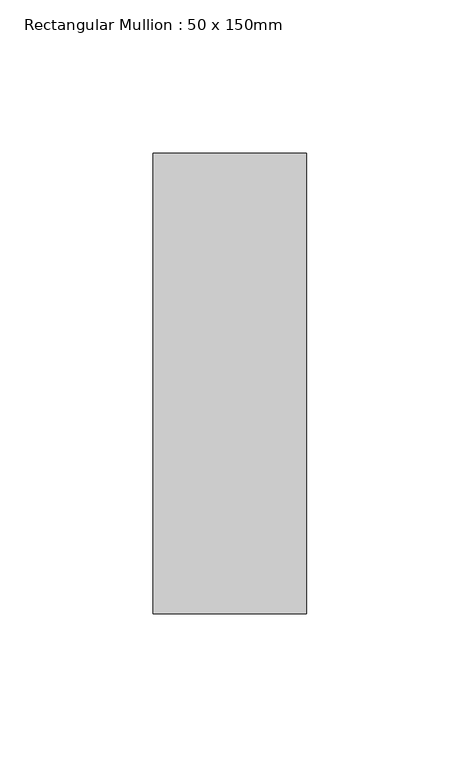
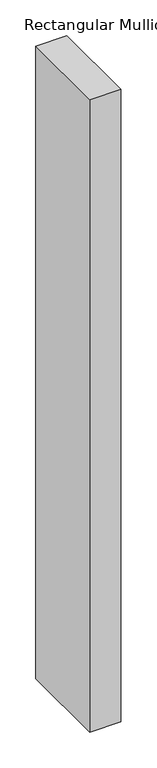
"""IFC4 building model written with IfcOpenShell, lengths in millimetres: member geometry, Rectangular Mullion : 50 x 150mm."""

import ifcopenshell
import ifcopenshell.guid

model = None  # the IFC model being written
_history = None  # IfcOwnerHistory: only IFC2X3 demands one
_inside = {}  # id of a spatial element -> (the spatial element, [elements in it])
_under = {}  # id of a project, library or spatial element -> (it, [spatial elements below it])
_declared = {}  # id of a project -> (the project, [libraries it declares])
_typed = {}  # id of a type object -> (the type object, [elements of that type])
_made_of = {}  # id of a material, layer set ... -> (it, [elements and type objects made of it])


def new_model(schema):
    """Start an empty IFC model of exactly this schema.

    Asked for "IFC4X3", IfcOpenShell would pick the latest addendum, in which some entities
    have other attributes; the version numbers below select the first issue.
    IFC2X3 requires an IfcOwnerHistory on every rooted entity: one is made here for all.
    """
    global model, _history
    if schema == "IFC4X3":
        model = ifcopenshell.file(schema_version=(4, 3, 0, 0))
    else:
        model = ifcopenshell.file(schema=schema)
    _inside.clear()
    _under.clear()
    _declared.clear()
    _typed.clear()
    _made_of.clear()
    _history = None
    if model.schema == "IFC2X3":
        org = make("IfcOrganization", Name="unknown")
        user = make(
            "IfcPersonAndOrganization",
            ThePerson=make("IfcPerson", FamilyName="unknown"),
            TheOrganization=org,
        )
        app = make(
            "IfcApplication",
            ApplicationDeveloper=org,
            Version="unknown",
            ApplicationFullName="unknown",
            ApplicationIdentifier="unknown",
        )
        _history = make(
            "IfcOwnerHistory",
            OwningUser=user,
            OwningApplication=app,
            ChangeAction="ADDED",
            CreationDate=0,
        )
    return model


def make(cls, **values):
    """One entity of the class cls with the attributes given. An attribute that is None is left unset."""
    return model.create_entity(
        cls, **{name: value for name, value in values.items() if value is not None}
    )


def rooted(cls, **values):
    """An entity with a GlobalId (a new one), such as an element, a storey or a relation."""
    return make(cls, GlobalId=ifcopenshell.guid.new(), OwnerHistory=_history, **values)


def si_unit(unit_type, name, prefix=None):
    """IfcSIUnit, for example si_unit("LENGTHUNIT", "METRE", prefix="MILLI")."""
    return make("IfcSIUnit", UnitType=unit_type, Prefix=prefix, Name=name)


def assignment(units):
    """IfcUnitAssignment: the units of a project."""
    return None if units is None else make("IfcUnitAssignment", Units=units)


def point(xyz):
    """IfcCartesianPoint."""
    return None if xyz is None else make("IfcCartesianPoint", Coordinates=xyz)


def direction(xyz):
    """IfcDirection."""
    return None if xyz is None else make("IfcDirection", DirectionRatios=xyz)


def frame(location, z_axis=None, x_axis=None):
    """IfcAxis2Placement3D, a coordinate frame: its origin and axes. An axis left out is left unset."""
    return make(
        "IfcAxis2Placement3D",
        Location=point(location),
        Axis=direction(z_axis),
        RefDirection=direction(x_axis),
    )


def origin():
    """The frame at (0, 0, 0) with its axes left unset."""
    return frame((0.0, 0.0, 0.0))


def place(relative_to, where):
    """IfcLocalPlacement: puts the frame where relative to a parent placement (None: the world)."""
    return make(
        "IfcLocalPlacement", PlacementRelTo=relative_to, RelativePlacement=where
    )


def context(
    kind, dimensions, precision=None, world=None, true_north=None, identifier=None
):
    """IfcGeometricRepresentationContext, for example the 3D "Model" context."""
    return make(
        "IfcGeometricRepresentationContext",
        ContextIdentifier=identifier,
        ContextType=kind,
        CoordinateSpaceDimension=dimensions,
        Precision=precision,
        WorldCoordinateSystem=world,
        TrueNorth=true_north,
    )


def project(units=None, contexts=None):
    """IfcProject with its units and contexts."""
    return rooted(
        "IfcProject",
        Name="project",
        RepresentationContexts=contexts,
        UnitsInContext=assignment(units),
    )


def spatial(cls, under=None, at=None, **own):
    """A site, building, storey or space (cls), placed at a placement, below another one or the project."""
    s = rooted(cls, ObjectPlacement=at, **own)
    if under is not None:
        _under.setdefault(under.id(), (under, []))[1].append(s)
    return s


def polyline(points):
    """IfcPolyline through the points."""
    return make("IfcPolyline", Points=[point(p) for p in points])


def outline(outer, holes=None, kind="AREA"):
    """IfcArbitraryClosedProfileDef: a profile drawn as a closed curve; with holes, ...WithVoids."""
    if holes is None:
        return make("IfcArbitraryClosedProfileDef", ProfileType=kind, OuterCurve=outer)
    return make(
        "IfcArbitraryProfileDefWithVoids",
        ProfileType=kind,
        OuterCurve=outer,
        InnerCurves=holes,
    )


def extrude(swept, where, along, depth):
    """IfcExtrudedAreaSolid: the profile swept, set in the frame where, extruded along a direction by depth."""
    return make(
        "IfcExtrudedAreaSolid",
        SweptArea=swept,
        Position=where,
        ExtrudedDirection=direction(along),
        Depth=depth,
    )


def shape(context_of_items, identifier, shape_type, items):
    """IfcShapeRepresentation: the items that make up one representation, for example the "Body"."""
    return make(
        "IfcShapeRepresentation",
        ContextOfItems=context_of_items,
        RepresentationIdentifier=identifier,
        RepresentationType=shape_type,
        Items=items,
    )


def source(mapping_origin, context_of_items, identifier, shape_type, items):
    """IfcRepresentationMap: a shape defined once, which mapped items show again and again."""
    return make(
        "IfcRepresentationMap",
        MappingOrigin=mapping_origin,
        MappedRepresentation=shape(context_of_items, identifier, shape_type, items),
    )


def transform(
    local_origin,
    x_axis=None,
    y_axis=None,
    z_axis=None,
    scale=None,
    scale2=None,
    scale3=None,
    uniform=True,
):
    """IfcCartesianTransformationOperator3D, or its non-uniform kind. x_axis, y_axis, z_axis: its Axis1, 2, 3."""
    if uniform:
        return make(
            "IfcCartesianTransformationOperator3D",
            Axis1=direction(x_axis),
            Axis2=direction(y_axis),
            LocalOrigin=point(local_origin),
            Scale=scale,
            Axis3=direction(z_axis),
        )
    return make(
        "IfcCartesianTransformationOperator3DnonUniform",
        Axis1=direction(x_axis),
        Axis2=direction(y_axis),
        LocalOrigin=point(local_origin),
        Scale=scale,
        Axis3=direction(z_axis),
        Scale2=scale2,
        Scale3=scale3,
    )


def mapped(mapping_source, mapping_target):
    """IfcMappedItem: shows the shape of a source again, moved by a transform."""
    return make(
        "IfcMappedItem", MappingSource=mapping_source, MappingTarget=mapping_target
    )


def made_of(thing, what):
    """Note that an element or type object is made of a material, layer set ...; save() writes the relation."""
    if what is not None:
        _made_of.setdefault(what.id(), (what, []))[1].append(thing)
    return thing


def element(
    cls,
    number,
    at=None,
    inside=None,
    cuts=None,
    type_object=None,
    material=None,
    context=None,
    identifier="Body",
    shape_type=None,
    held_by="IfcProductDefinitionShape",
    body=None,
    shapes=None,
    **own,
):
    """One element of the class cls, such as IfcWall. Its Tag is "e" and its number.

    at: its placement. inside: the storey or other place that contains it. cuts: it is an
    opening in that element (IfcRelVoidsElement). A single representation is given by context,
    identifier, shape_type and body (its items); several are given by shapes. held_by: the class
    of the entity that holds the representations. save() writes the other relations.
    """
    e = rooted(cls, Tag="e%d" % number, ObjectPlacement=at, **own)
    if body is not None:
        shapes = [shape(context, identifier, shape_type, body)]
    if shapes is not None:
        e.Representation = make(held_by, Representations=shapes)
    if inside is not None:
        _inside.setdefault(inside.id(), (inside, []))[1].append(e)
    if cuts is not None:
        rooted(
            "IfcRelVoidsElement", RelatingBuildingElement=cuts, RelatedOpeningElement=e
        )
    if type_object is not None:
        _typed.setdefault(type_object.id(), (type_object, []))[1].append(e)
    return made_of(e, material)


def aggregate(whole, parts):
    """IfcRelAggregates: a whole, such as a stair, and the parts it consists of."""
    return rooted("IfcRelAggregates", RelatingObject=whole, RelatedObjects=parts)


def save(model, path):
    """Write the relations noted so far, then the file.

    IfcRelAggregates (storeys below a building ...), IfcRelContainedInSpatialStructure (elements
    in a storey), IfcRelDefinesByType, IfcRelAssociatesMaterial and IfcRelDeclares: one each for
    every whole, place, type object, material and project.
    """
    for whole, parts in _under.values():
        aggregate(whole, parts)
    for where, things in _inside.values():
        rooted(
            "IfcRelContainedInSpatialStructure",
            RelatedElements=things,
            RelatingStructure=where,
        )
    for kind, things in _typed.values():
        rooted("IfcRelDefinesByType", RelatedObjects=things, RelatingType=kind)
    for what, things in _made_of.values():
        rooted("IfcRelAssociatesMaterial", RelatedObjects=things, RelatingMaterial=what)
    for by, libraries in _declared.values():
        rooted("IfcRelDeclares", RelatingContext=by, RelatedDefinitions=libraries)
    model.write(path)


def rectangular_mullion_50_x_150mm_56520ca9(model_context):
    return source(origin(), model_context, "Body", "SweptSolid", [
        extrude(outline(polyline([(0.0, 75.0), (0.0, -75.0), (-50.0, -75.0), (-50.0, 75.0), (0.0, 75.0)])), frame((0.0, 0.0, -1076.6021317), z_axis=(0.0, 0.0, 1.0), x_axis=(1.0, 0.0, 0.0)), (0.0, 0.0, 1.0), 1076.6021317),
    ])


if __name__ == "__main__":
    model = new_model("IFC4")
    model_context = context("Model", 3, world=origin())
    ifc_project = project(units=[si_unit("LENGTHUNIT", "METRE", prefix="MILLI")], contexts=[model_context])
    site = spatial("IfcSite", under=ifc_project)
    building = spatial("IfcBuilding", under=site)
    placement = place(None, origin())
    rectangular_mullion_50_x_150mm_shape = rectangular_mullion_50_x_150mm_56520ca9(model_context)
    element("IfcMember", 1, ObjectType="Rectangular Mullion : 50 x 150mm", at=placement, inside=building, context=model_context, shape_type="MappedRepresentation", body=[
        mapped(rectangular_mullion_50_x_150mm_shape, transform((0.0, 0.0, 0.0), x_axis=(1.0, 0.0, 0.0), y_axis=(0.0, 1.0, 0.0), z_axis=(0.0, 0.0, 1.0))),
    ])
    save(model, "model.ifc")
